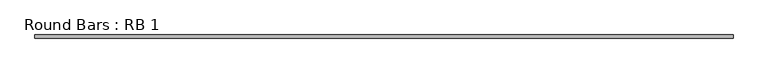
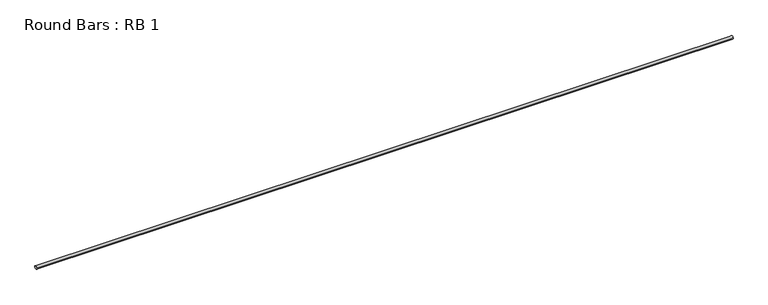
"""IFC4 building model written with IfcOpenShell, lengths in millimetres: beam geometry, Round Bars : RB 1."""

from ifc_helpers import new_model, si_unit, point, frame, origin, origin_2d, place, context, project, spatial, circle_curve, trimmed, segment, composite_curve, outline, extrude, source, transform, mapped, element, save


def round_bars_rb_1_81fd8ecd(model_context):
    return source(origin(), model_context, "Body", "SweptSolid", [
        extrude(outline(composite_curve([segment(trimmed(circle_curve(origin_2d(), 12.7), [point((12.7, 0.0))], [point((-12.7, 0.0))], False, "CARTESIAN"), True, "CONTINUOUS"), segment(trimmed(circle_curve(origin_2d(), 12.7), [point((-12.7, 0.0))], [point((12.7, 0.0))], False, "CARTESIAN"), True, "CONTINUOUS")], self_intersect=False)), frame((-2788.5929692, 0.0, 0.0), z_axis=(1.0, 0.0, 0.0), x_axis=(0.0, 1.0, 0.0)), (0.0, 0.0, 1.0), 5582.6670331),
    ])


if __name__ == "__main__":
    model = new_model("IFC4")
    model_context = context("Model", 3, world=origin())
    ifc_project = project(units=[si_unit("LENGTHUNIT", "METRE", prefix="MILLI")], contexts=[model_context])
    site = spatial("IfcSite", under=ifc_project)
    building = spatial("IfcBuilding", under=site)
    placement = place(None, origin())
    round_bars_rb_1_shape = round_bars_rb_1_81fd8ecd(model_context)
    element("IfcBeam", 1, ObjectType="Round Bars : RB 1", at=placement, inside=building, context=model_context, shape_type="MappedRepresentation", body=[
        mapped(round_bars_rb_1_shape, transform((0.0, 0.0, 0.0), x_axis=(1.0, 0.0, 0.0), y_axis=(0.0, 1.0, 0.0), z_axis=(0.0, 0.0, 1.0))),
    ])
    save(model, "model.ifc")
